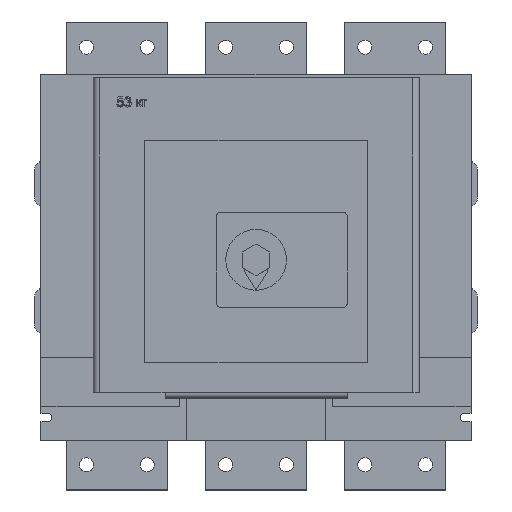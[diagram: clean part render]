
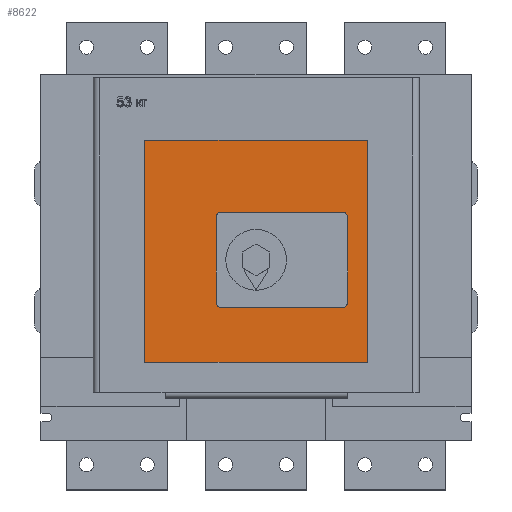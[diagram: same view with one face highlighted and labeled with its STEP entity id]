
A CAD part, top view. The second image highlights one B-rep face of the part: STEP entity #8622.
In plain terms, the highlighted planar face has unit normal (0, 0, 1).
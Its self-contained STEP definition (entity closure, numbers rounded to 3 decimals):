
#48 = VERTEX_POINT ( 'NONE', #4147 ) ;
#69 = DIRECTION ( 'NONE',  ( 0., 1., 0. ) ) ;
#194 = CARTESIAN_POINT ( 'NONE',  ( 178.1, 131., 266.8 ) ) ;
#242 = CARTESIAN_POINT ( 'NONE',  ( 0., 0., 266.8 ) ) ;
#292 = DIRECTION ( 'NONE',  ( 1., 0., 0. ) ) ;
#313 = VERTEX_POINT ( 'NONE', #6317 ) ;
#448 = VECTOR ( 'NONE', #69, 1000. ) ;
#466 = EDGE_CURVE ( 'NONE', #8636, #5629, #2427, .T. ) ;
#516 = ORIENTED_EDGE ( 'NONE', *, *, #1908, .T. ) ;
#931 = AXIS2_PLACEMENT_3D ( 'NONE', #7263, #3169, #7941 ) ;
#954 = CIRCLE ( 'NONE', #3081, 5. ) ;
#988 = LINE ( 'NONE', #194, #6213 ) ;
#1075 = DIRECTION ( 'NONE',  ( 0., 0., 1. ) ) ;
#1115 = DIRECTION ( 'NONE',  ( 0., 0., 1. ) ) ;
#1212 = EDGE_CURVE ( 'NONE', #6901, #2344, #4863, .T. ) ;
#1379 = ORIENTED_EDGE ( 'NONE', *, *, #8686, .F. ) ;
#1457 = ORIENTED_EDGE ( 'NONE', *, *, #4375, .F. ) ;
#1472 = ORIENTED_EDGE ( 'NONE', *, *, #8249, .F. ) ;
#1654 = DIRECTION ( 'NONE',  ( 0., 0., 1. ) ) ;
#1708 = ORIENTED_EDGE ( 'NONE', *, *, #4686, .F. ) ;
#1725 = CARTESIAN_POINT ( 'NONE',  ( 178.1, 131., 266.8 ) ) ;
#1772 = CARTESIAN_POINT ( 'NONE',  ( 173.1, 220., 266.8 ) ) ;
#1849 = LINE ( 'NONE', #4207, #7279 ) ;
#1908 = EDGE_CURVE ( 'NONE', #2344, #5551, #8330, .T. ) ;
#1955 = DIRECTION ( 'NONE',  ( 0., 0., 1. ) ) ;
#2006 = EDGE_CURVE ( 'NONE', #4574, #8636, #2281, .T. ) ;
#2010 = EDGE_LOOP ( 'NONE', ( #8395, #5932, #1379, #7036, #1472, #8555, #1457, #1708 ) ) ;
#2043 = EDGE_CURVE ( 'NONE', #5551, #4033, #1849, .T. ) ;
#2136 = VECTOR ( 'NONE', #8020, 1000. ) ;
#2281 = LINE ( 'NONE', #3483, #448 ) ;
#2299 = DIRECTION ( 'NONE',  ( 0., -1., 0. ) ) ;
#2344 = VERTEX_POINT ( 'NONE', #3803 ) ;
#2427 = CIRCLE ( 'NONE', #8340, 5. ) ;
#3081 = AXIS2_PLACEMENT_3D ( 'NONE', #6025, #1955, #6705 ) ;
#3169 = DIRECTION ( 'NONE',  ( 0., 0., 1. ) ) ;
#3447 = CARTESIAN_POINT ( 'NONE',  ( 303.1, 136., 266.8 ) ) ;
#3483 = CARTESIAN_POINT ( 'NONE',  ( 303.1, 136., 266.8 ) ) ;
#3555 = CARTESIAN_POINT ( 'NONE',  ( 298.1, 225., 266.8 ) ) ;
#3612 = EDGE_CURVE ( 'NONE', #8013, #313, #988, .T. ) ;
#3703 = CARTESIAN_POINT ( 'NONE',  ( 303.1, 220., 266.8 ) ) ;
#3803 = CARTESIAN_POINT ( 'NONE',  ( 102.6, 296., 266.8 ) ) ;
#3882 = DIRECTION ( 'NONE',  ( -1., 0., 0. ) ) ;
#3939 = CARTESIAN_POINT ( 'NONE',  ( 322.6, 77., 266.8 ) ) ;
#4033 = VERTEX_POINT ( 'NONE', #6239 ) ;
#4065 = CARTESIAN_POINT ( 'NONE',  ( 102.6, 77., 266.8 ) ) ;
#4093 = CARTESIAN_POINT ( 'NONE',  ( 322.6, 296., 266.8 ) ) ;
#4147 = CARTESIAN_POINT ( 'NONE',  ( 173.1, 136., 266.8 ) ) ;
#4153 = CIRCLE ( 'NONE', #8865, 5. ) ;
#4159 = CARTESIAN_POINT ( 'NONE',  ( 298.1, 225., 266.8 ) ) ;
#4207 = CARTESIAN_POINT ( 'NONE',  ( 322.6, 77., 266.8 ) ) ;
#4341 = EDGE_LOOP ( 'NONE', ( #4929, #5456, #516, #6039 ) ) ;
#4364 = VERTEX_POINT ( 'NONE', #1772 ) ;
#4375 = EDGE_CURVE ( 'NONE', #4383, #4364, #6551, .T. ) ;
#4383 = VERTEX_POINT ( 'NONE', #4539 ) ;
#4479 = DIRECTION ( 'NONE',  ( 0., -1., 0. ) ) ;
#4539 = CARTESIAN_POINT ( 'NONE',  ( 178.1, 225., 266.8 ) ) ;
#4574 = VERTEX_POINT ( 'NONE', #3447 ) ;
#4686 = EDGE_CURVE ( 'NONE', #5629, #4383, #7837, .T. ) ;
#4863 = LINE ( 'NONE', #8650, #8256 ) ;
#4912 = VECTOR ( 'NONE', #2299, 1000. ) ;
#4929 = ORIENTED_EDGE ( 'NONE', *, *, #6755, .T. ) ;
#4973 = DIRECTION ( 'NONE',  ( 1., 0., 0. ) ) ;
#5006 = FACE_OUTER_BOUND ( 'NONE', #4341, .T. ) ;
#5161 = CARTESIAN_POINT ( 'NONE',  ( 298.1, 136., 266.8 ) ) ;
#5209 = CARTESIAN_POINT ( 'NONE',  ( 298.1, 220., 266.8 ) ) ;
#5456 = ORIENTED_EDGE ( 'NONE', *, *, #1212, .T. ) ;
#5551 = VERTEX_POINT ( 'NONE', #4065 ) ;
#5629 = VERTEX_POINT ( 'NONE', #4159 ) ;
#5743 = LINE ( 'NONE', #3939, #2136 ) ;
#5839 = DIRECTION ( 'NONE',  ( 1., 0., 0. ) ) ;
#5893 = DIRECTION ( 'NONE',  ( 1., 0., 0. ) ) ;
#5932 = ORIENTED_EDGE ( 'NONE', *, *, #2006, .F. ) ;
#6025 = CARTESIAN_POINT ( 'NONE',  ( 178.1, 136., 266.8 ) ) ;
#6039 = ORIENTED_EDGE ( 'NONE', *, *, #2043, .T. ) ;
#6213 = VECTOR ( 'NONE', #4973, 1000. ) ;
#6239 = CARTESIAN_POINT ( 'NONE',  ( 322.6, 77., 266.8 ) ) ;
#6317 = CARTESIAN_POINT ( 'NONE',  ( 298.1, 131., 266.8 ) ) ;
#6551 = CIRCLE ( 'NONE', #931, 5. ) ;
#6557 = AXIS2_PLACEMENT_3D ( 'NONE', #242, #1654, #292 ) ;
#6705 = DIRECTION ( 'NONE',  ( 1., 0., 0. ) ) ;
#6707 = LINE ( 'NONE', #7056, #4912 ) ;
#6755 = EDGE_CURVE ( 'NONE', #4033, #6901, #5743, .T. ) ;
#6901 = VERTEX_POINT ( 'NONE', #4093 ) ;
#6951 = DIRECTION ( 'NONE',  ( -1., 0., 0. ) ) ;
#7028 = FACE_BOUND ( 'NONE', #2010, .T. ) ;
#7036 = ORIENTED_EDGE ( 'NONE', *, *, #3612, .F. ) ;
#7056 = CARTESIAN_POINT ( 'NONE',  ( 173.1, 220., 266.8 ) ) ;
#7263 = CARTESIAN_POINT ( 'NONE',  ( 178.1, 220., 266.8 ) ) ;
#7279 = VECTOR ( 'NONE', #8257, 1000. ) ;
#7402 = VECTOR ( 'NONE', #6951, 1000. ) ;
#7787 = PLANE ( 'NONE',  #6557 ) ;
#7837 = LINE ( 'NONE', #3555, #7402 ) ;
#7933 = EDGE_CURVE ( 'NONE', #4364, #48, #6707, .T. ) ;
#7941 = DIRECTION ( 'NONE',  ( 1., 0., 0. ) ) ;
#8013 = VERTEX_POINT ( 'NONE', #1725 ) ;
#8020 = DIRECTION ( 'NONE',  ( 0., 1., 0. ) ) ;
#8249 = EDGE_CURVE ( 'NONE', #48, #8013, #954, .T. ) ;
#8256 = VECTOR ( 'NONE', #3882, 1000. ) ;
#8257 = DIRECTION ( 'NONE',  ( 1., 0., 0. ) ) ;
#8330 = LINE ( 'NONE', #8562, #8558 ) ;
#8340 = AXIS2_PLACEMENT_3D ( 'NONE', #5209, #1115, #5893 ) ;
#8395 = ORIENTED_EDGE ( 'NONE', *, *, #466, .F. ) ;
#8555 = ORIENTED_EDGE ( 'NONE', *, *, #7933, .F. ) ;
#8558 = VECTOR ( 'NONE', #4479, 1000. ) ;
#8562 = CARTESIAN_POINT ( 'NONE',  ( 102.6, 77., 266.8 ) ) ;
#8622 = ADVANCED_FACE ( 'NONE', ( #7028, #5006 ), #7787, .T. ) ;
#8636 = VERTEX_POINT ( 'NONE', #3703 ) ;
#8650 = CARTESIAN_POINT ( 'NONE',  ( 322.6, 296., 266.8 ) ) ;
#8686 = EDGE_CURVE ( 'NONE', #313, #4574, #4153, .T. ) ;
#8865 = AXIS2_PLACEMENT_3D ( 'NONE', #5161, #1075, #5839 ) ;
